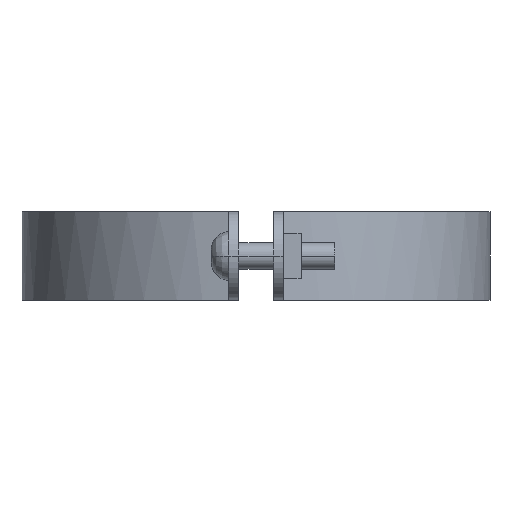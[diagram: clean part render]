
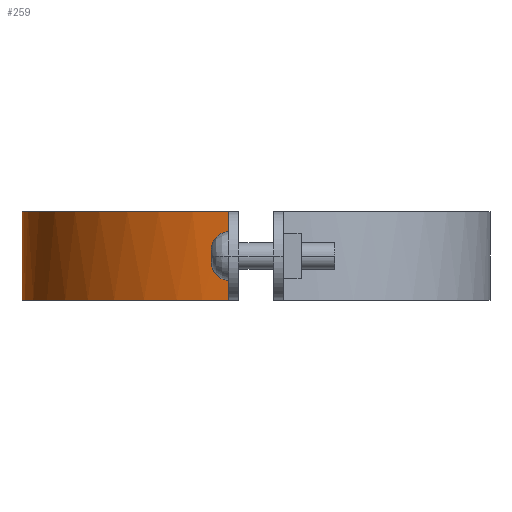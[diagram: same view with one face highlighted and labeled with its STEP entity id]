
A CAD part, left-side view. The second image highlights one B-rep face of the part: STEP entity #259.
In plain terms, the highlighted free-form (B-spline) face has degree [3, 1] with [4, 2] control points.
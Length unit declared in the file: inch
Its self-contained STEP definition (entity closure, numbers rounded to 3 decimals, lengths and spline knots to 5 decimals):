
#259=ADVANCED_FACE('',(#512),#513,.T.);
#512=FACE_OUTER_BOUND('',#1119,.T.);
#513=B_SPLINE_SURFACE_WITH_KNOTS('',3,1,((#1120,#1121),(#1122,#1123),(#1124,#1125),(#1126,#1127)),.UNSPECIFIED.,.F.,.F.,.F.,(4,4),(2,2),(-1.0,-0.0),(0.0,1.25),.UNSPECIFIED.);
#1119=EDGE_LOOP('',(#1756,#1757,#1758,#1759));
#1120=CARTESIAN_POINT('',(4.03185,6.63773,0.0));
#1121=CARTESIAN_POINT('',(4.03185,6.63773,1.25));
#1122=CARTESIAN_POINT('',(2.34549,6.63773,0.0));
#1123=CARTESIAN_POINT('',(2.34549,6.63773,1.25));
#1124=CARTESIAN_POINT('',(0.92648,5.37464,0.0));
#1125=CARTESIAN_POINT('',(0.92648,5.37464,1.25));
#1126=CARTESIAN_POINT('',(0.73107,3.69963,0.0));
#1127=CARTESIAN_POINT('',(0.73107,3.69963,1.25));
#1756=ORIENTED_EDGE('',*,*,#2170,.T.);
#1757=ORIENTED_EDGE('',*,*,#2008,.T.);
#1758=ORIENTED_EDGE('',*,*,#2195,.T.);
#1759=ORIENTED_EDGE('',*,*,#2091,.F.);
#2008=EDGE_CURVE('',#2281,#2288,#2290,.T.);
#2091=EDGE_CURVE('',#2423,#2425,#2426,.T.);
#2170=EDGE_CURVE('',#2423,#2281,#2549,.T.);
#2195=EDGE_CURVE('',#2288,#2425,#2578,.T.);
#2281=VERTEX_POINT('',#2694);
#2288=VERTEX_POINT('',#2708);
#2290=LINE('',#2711,#2712);
#2423=VERTEX_POINT('',#2973);
#2425=VERTEX_POINT('',#2976);
#2426=LINE('',#2977,#2978);
#2549=B_SPLINE_CURVE_WITH_KNOTS('',3,(#3207,#3208,#3209,#3210),.UNSPECIFIED.,.F.,.F.,(4,4),(-1.0,-0.0),.UNSPECIFIED.);
#2578=B_SPLINE_CURVE_WITH_KNOTS('',3,(#3268,#3269,#3270,#3271),.UNSPECIFIED.,.F.,.F.,(4,4),(0.0,1.0),.UNSPECIFIED.);
#2694=CARTESIAN_POINT('',(0.73107,3.69963,0.00011));
#2708=CARTESIAN_POINT('',(0.73107,3.69963,1.24992));
#2711=CARTESIAN_POINT('',(0.73107,3.69963,0.0));
#2712=VECTOR('',#3377,1.0);
#2973=CARTESIAN_POINT('',(4.03185,6.63773,0.00011));
#2976=CARTESIAN_POINT('',(4.03185,6.63773,1.24992));
#2977=CARTESIAN_POINT('',(4.03185,6.63773,0.0));
#2978=VECTOR('',#3432,1.0);
#3207=CARTESIAN_POINT('',(4.03185,6.63773,0.00011));
#3208=CARTESIAN_POINT('',(2.34549,6.63773,0.00011));
#3209=CARTESIAN_POINT('',(0.92648,5.37464,0.00011));
#3210=CARTESIAN_POINT('',(0.73107,3.69963,0.00011));
#3268=CARTESIAN_POINT('',(0.73107,3.69963,1.24992));
#3269=CARTESIAN_POINT('',(0.92648,5.37464,1.24992));
#3270=CARTESIAN_POINT('',(2.34549,6.63773,1.24992));
#3271=CARTESIAN_POINT('',(4.03185,6.63773,1.24992));
#3377=DIRECTION('',(0.0,0.0,1.0));
#3432=DIRECTION('',(0.0,0.0,1.0));
